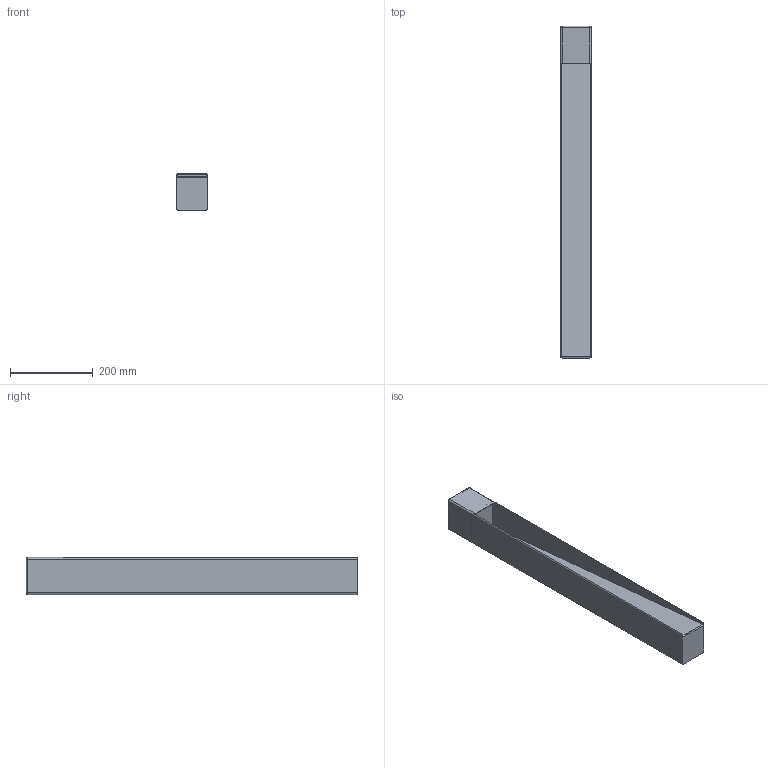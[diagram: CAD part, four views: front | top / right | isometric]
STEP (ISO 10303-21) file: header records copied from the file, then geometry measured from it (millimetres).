
FILE_DESCRIPTION (( 'STEP AP203' ), '1' );
FILE_NAME ('SPREAD 800 3D MODEL.STEP', '2016-09-30T13:47:09', ( '' ), ( '' ), 'SwSTEP 2.0', 'SolidWorks 2016', '' );
FILE_SCHEMA (( 'CONFIG_CONTROL_DESIGN' ));
Length unit declared in the file: millimetre
Products named in the file (1): SPREAD 800 3D MODEL
Bounding box: 74 x 800 x 89.5 mm (x, y, z)
Volume: 3206532.1 mm3; surface area: 333554 mm2
Topology: 1 solids, 1 shells, 26 faces, 64 edges, 36 vertices
Faces by surface type: plane 13, cylinder 9, sphere 4
Entity records: 805 total; most frequent: DIRECTION 134, CARTESIAN_POINT 123, ORIENTED_EDGE 120, EDGE_CURVE 60, AXIS2_PLACEMENT_3D 47, VECTOR 40, LINE 40, VERTEX_POINT 36
